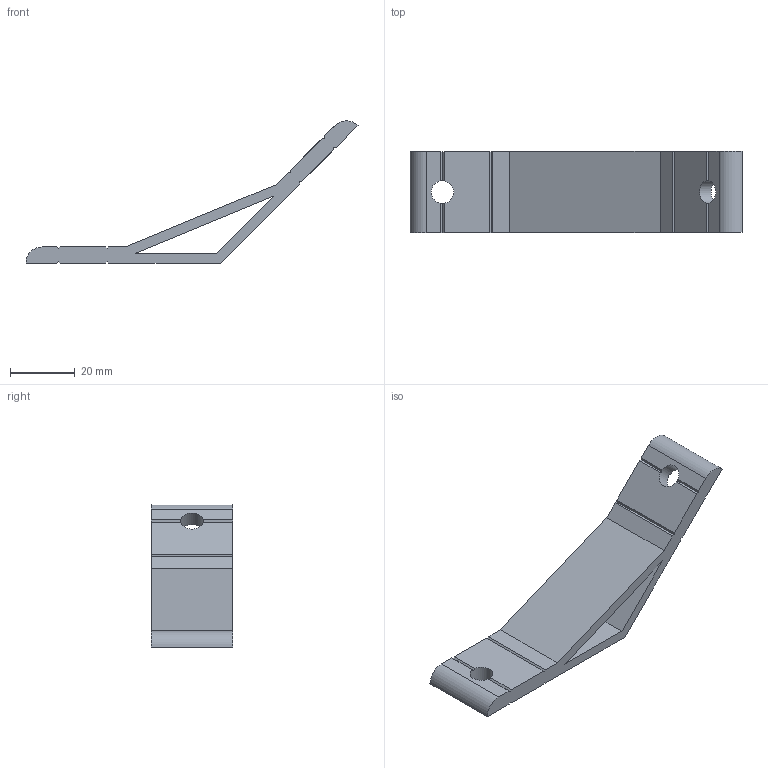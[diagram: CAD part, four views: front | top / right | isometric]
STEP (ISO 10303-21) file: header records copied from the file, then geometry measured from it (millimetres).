
FILE_DESCRIPTION(/* description */ ('Unknown'),/* implementation_level */ '2;1');
FILE_NAME(/* name */ 'AV25135',/* time_stamp */ '2026-09-17T13:49:46+08:00',/* author */ ('Unknown'),/* organization */ ('Unknown'),/* preprocessor_version */ 'ST-DEVELOPER v16.7',/* originating_system */ 'DEX',/* authorisation */ $);
FILE_SCHEMA (('AUTOMOTIVE_DESIGN {1 0 10303 214 3 1 1}'));
Length unit declared in the file: millimetre
Products named in the file (1): AV25135
Bounding box: 102.43 x 25 x 43.87 mm (x, y, z)
Volume: 15051.7 mm3; surface area: 9710.1 mm2
Topology: 1 solids, 1 shells, 46 faces, 140 edges, 92 vertices
Faces by surface type: plane 42, cylinder 4
Full cylindrical faces by diameter (mm): 7 x2
Entity records: 1592 total; most frequent: CARTESIAN_POINT 277, ORIENTED_EDGE 276, DIRECTION 260, EDGE_CURVE 138, LINE 110, VECTOR 110, VERTEX_POINT 92, AXIS2_PLACEMENT_3D 75
